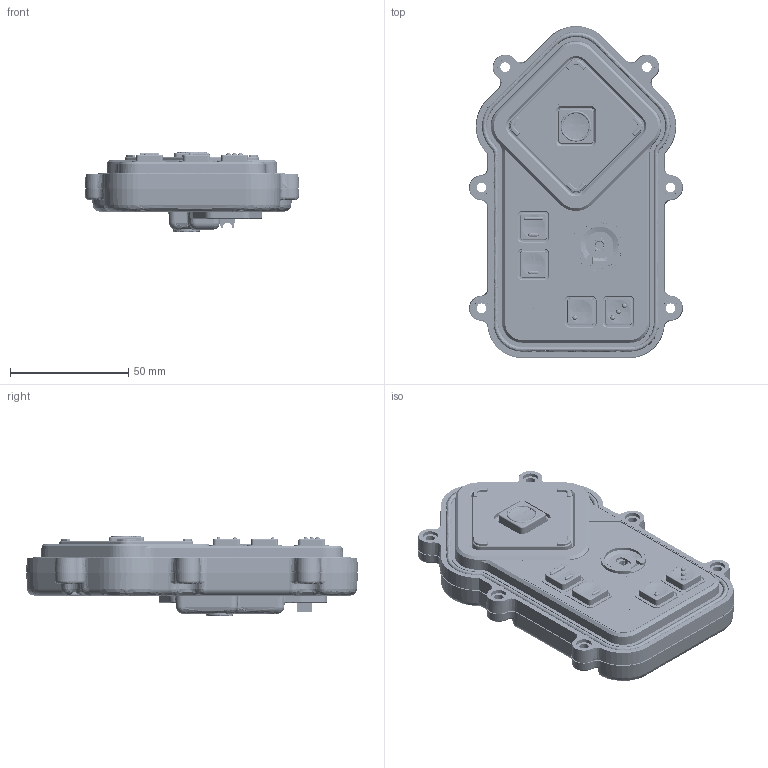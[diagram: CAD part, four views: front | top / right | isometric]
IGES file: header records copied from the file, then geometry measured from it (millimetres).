
Start section: SolidWorks IGES file using NURBS representation for surfaces
Global section: file name: C:\Users\anthonyc\Desktop\AudioNav EF\1409-34001~1 Vertical.IGS; native system: SolidWorks 2018; preprocessor: SolidWorks 2018; author: AnthonyC; date: 190808.110941; units: millimetre
Bounding box: 90.63 x 140.52 x 33.94 mm (x, y, z)
Surface area: 69809.8 mm2 (no closed solid volume)
Topology: 0 solids, 0 shells, 3406 faces, 31079 edges, 30935 vertices
Faces by surface type: bspline 3406
